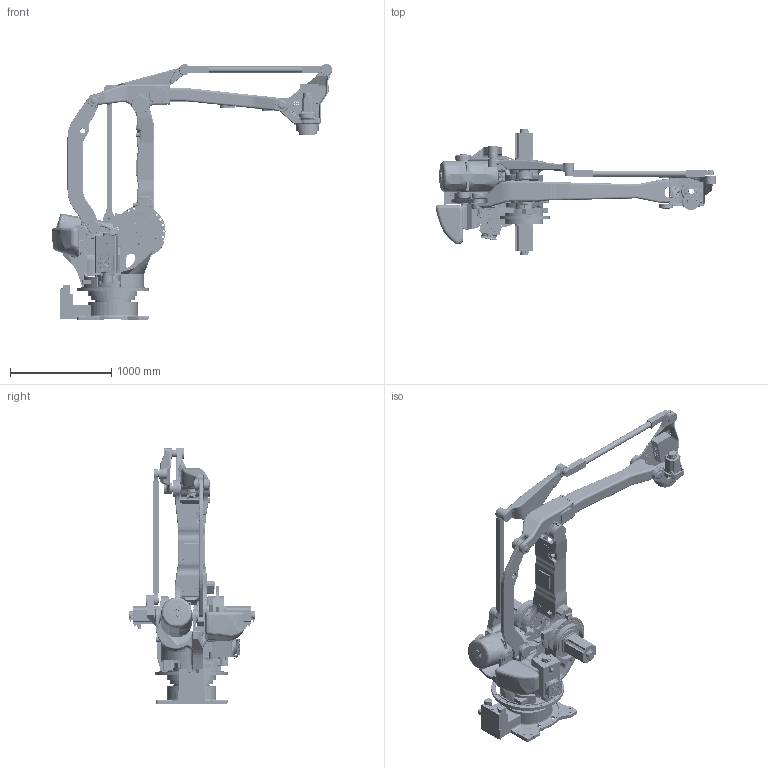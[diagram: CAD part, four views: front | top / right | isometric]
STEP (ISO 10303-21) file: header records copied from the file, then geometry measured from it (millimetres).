
FILE_DESCRIPTION(('CATIA V5 STEP Exchange'),'2;1');
FILE_NAME('K:\Projekti\Roboti DX100 - Nova generacija\3D\MPL160\STEP\MPL160.stp','2009-03-27T09:06:40+00:00',('none'),('none'),'CATIA Version 5 Release 16 (IN-10)','CATIA V5 STEP AP214','none');
FILE_SCHEMA(('AUTOMOTIVE_DESIGN { 1 0 10303 214 1 1 1 1 }'));
Products named in the file (14): MPL160; MP160_RIST_SW0001; MPL160_BALANCER_02_SW0001; MPL160_BALANCER_SW0001; MPL160_BASE_SW0001; MPL160_L_AXIS_SW0001; MPL160_LINK_D_SW0001; MPL160_RINK_A_SW0001; MPL160_RINK_B_SW0001; MPL160_RINK_C_SW0001; MPL160_RINKE_E_SW0001; MPL160_S_AXIS_SW0001; MPL160_T_AXIS_SW0001; MPL160_U_AXIS_SW0001
Assembly tree (13 placements, depth 2):
  MPL160
    MP160_RIST_SW0001
    MPL160_BALANCER_02_SW0001
    MPL160_BALANCER_SW0001
    MPL160_BASE_SW0001
    MPL160_L_AXIS_SW0001
    MPL160_LINK_D_SW0001
    MPL160_RINK_A_SW0001
    MPL160_RINK_B_SW0001
    MPL160_RINK_C_SW0001
    MPL160_RINKE_E_SW0001
    MPL160_S_AXIS_SW0001
    MPL160_T_AXIS_SW0001
    MPL160_U_AXIS_SW0001
Bounding box: 2770.77 x 1241 x 2533.65 mm (x, y, z)
Volume: 235165811.5 mm3; surface area: 21321312.4 mm2
Topology: 23 solids, 25 shells, 8739 faces, 20885 edges, 12665 vertices
Faces by surface type: cylinder 3932, plane 2222, revolution 1883, bspline 702
Full cylindrical faces by diameter (mm): 170 x1
Entity records: 371357 total; most frequent: CARTESIAN_POINT 186794, ORIENTED_EDGE 41060, DIRECTION 28545, EDGE_CURVE 20533, VERTEX_POINT 12665, AXIS2_PLACEMENT_3D 12174, EDGE_LOOP 10142, ADVANCED_FACE 8739
